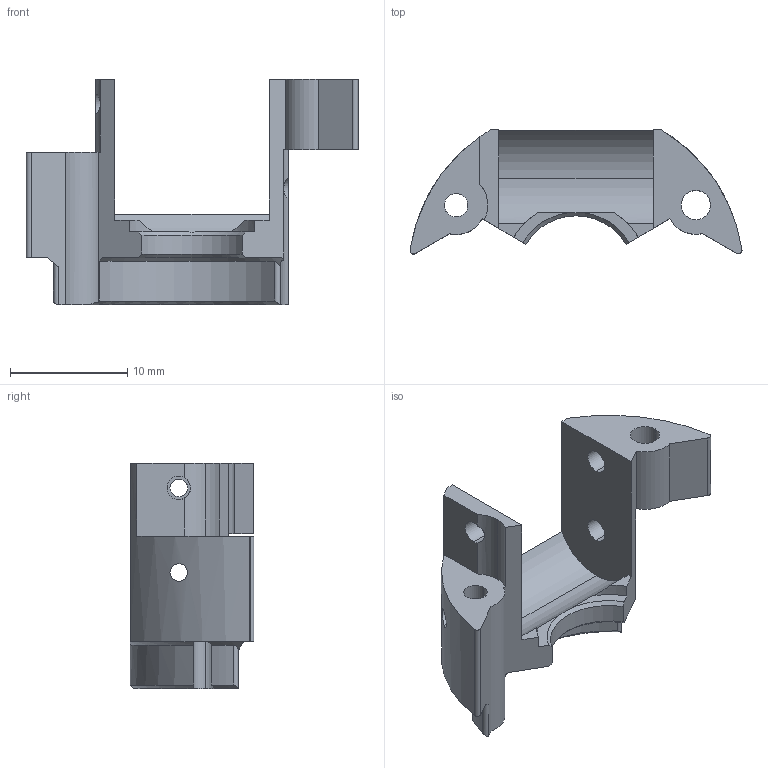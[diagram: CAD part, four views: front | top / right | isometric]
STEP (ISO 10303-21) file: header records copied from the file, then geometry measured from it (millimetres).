
FILE_DESCRIPTION (( 'STEP AP214' ), '1' );
FILE_NAME ('Êîðïóñ Ä.STEP', '2019-03-21T14:05:09', ( '' ), ( '' ), 'SwSTEP 2.0', 'SolidWorks 2018', '' );
FILE_SCHEMA (( 'AUTOMOTIVE_DESIGN' ));
Length unit declared in the file: millimetre
Products named in the file (1): Êîðïóñ Ä
Bounding box: 28.3 x 10.56 x 19.19 mm (x, y, z)
Volume: 1212.4 mm3; surface area: 1564.3 mm2
Topology: 1 solids, 1 shells, 69 faces, 203 edges, 135 vertices
Faces by surface type: cylinder 37, plane 23, cone 9
Entity records: 2526 total; most frequent: CARTESIAN_POINT 607, ORIENTED_EDGE 406, DIRECTION 395, EDGE_CURVE 203, AXIS2_PLACEMENT_3D 154, VERTEX_POINT 135, LINE 87, VECTOR 87
